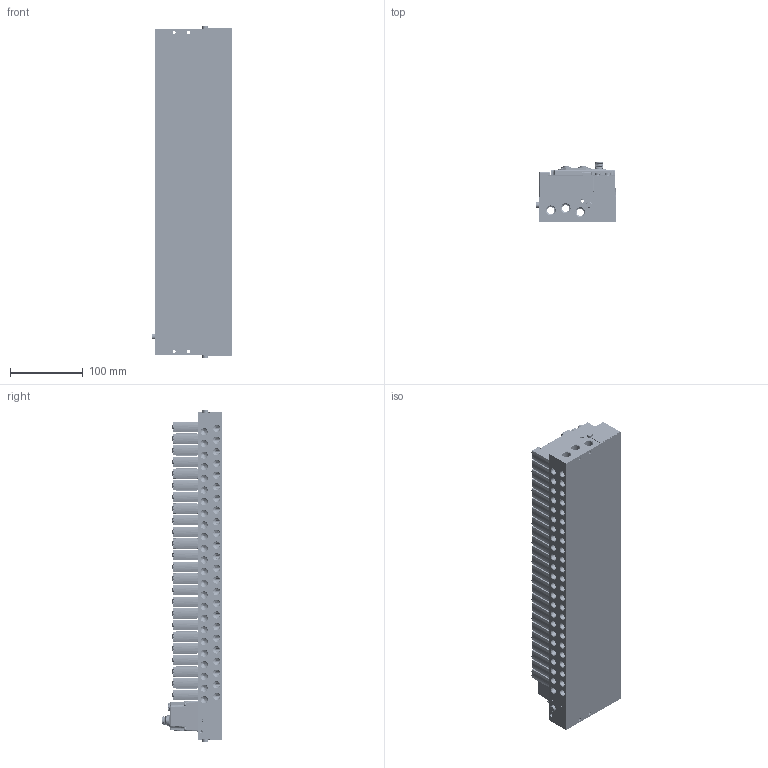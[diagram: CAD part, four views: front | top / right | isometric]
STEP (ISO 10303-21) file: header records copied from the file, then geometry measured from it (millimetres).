
FILE_DESCRIPTION((''),'2;1');
FILE_NAME('C3-L14-W-XBF-24_ASM_ASM','2026-06-17T13:48:57',('admin'),(''),'CREO PARAMETRIC BY PTC INC, 2022073','CREO PARAMETRIC BY PTC INC, 2022073','');
FILE_SCHEMA(('CONFIG_CONTROL_DESIGN'));
Products named in the file (43): PRT0002-1-SOLID2_1; 202300320_ASM-1_202300144-1-SOL; 202300320_ASM-1_202300353-2-SOL; 202300320_ASM-1_202300355-2-SOL; NONE-103256_1; PRT0002-1-SOLID4_1; 202300320_ASM-1_202300318_ASM-1; 202300320_ASM-1_202300355-1-SOL; 202300320_ASM-1_202300314_ASM-1; NONE-139148_1; 202300320_ASM-1_202300353-1-SOL; 202300320_ASM-1_202300327-1-SOL; NONE-182497_1; PRT0002-1-SOLID1_1; 202300320_ASM-1_202300351-1-SOL; 202300320_ASM-1_202300349-2-SOL; 202300320_ASM-1_202300351-2-SOL; 202300320_ASM-1_202300349-1-SOL; SURFACE-VGB14_ASM_1_ASM; M50001_1; 0001_1; M3X16-2-SOLID10001_1; M3X16-4-SOLID10001_1; SH794-1-1-SOLID1_1_1; SH794-1-1-SOLID1_1_2; SH794-1-1-SOLID1_1_3; SH794-1-1-SOLID1_1_ASM; M3X5-1-SOLID10001_1; M3X16-3-SOLID10001_1; M12D-2022_11_-70380001_1; M12D-2022_11_-82260001_1; M3X16-1-SOLID10001_1; NONE-196029_1; SH794-3-1-SOLID1_1; NONE-215390_1; M12A5-1-SOLID10001_1; XBF_0001_ASM_1_ASM; C3-L14-W-XBF-24-135038_1; C3-L14-W-XBF-24-210887_ASM_1_ASM; _06--1-SOLID30001_1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
Assembly tree (74 placements, depth 6):
  C3-L14-W-XBF-24_ASM_ASM
    C3-L14-W-XBF-24_ASM_1_ASM
      C3-L14-W-XBF-24-210887_ASM_1_ASM
        SURFACE-VGB14_ASM_1_ASM  x24
          PRT0002-1-SOLID2_1
          202300320_ASM-1_202300144-1-SOL
          202300320_ASM-1_202300353-2-SOL
          202300320_ASM-1_202300355-2-SOL
          NONE-103256_1
          PRT0002-1-SOLID4_1
          202300320_ASM-1_202300318_ASM-1
          202300320_ASM-1_202300355-1-SOL
          202300320_ASM-1_202300314_ASM-1
          NONE-139148_1
          202300320_ASM-1_202300353-1-SOL
          202300320_ASM-1_202300327-1-SOL
          NONE-182497_1
          PRT0002-1-SOLID1_1
          202300320_ASM-1_202300351-1-SOL
          202300320_ASM-1_202300349-2-SOL
          202300320_ASM-1_202300351-2-SOL
          202300320_ASM-1_202300349-1-SOL
        M50001_1  x3
        0001_1  x2
        XBF_0001_ASM_1_ASM
          M3X16-2-SOLID10001_1
          M3X16-4-SOLID10001_1
          SH794-1-1-SOLID1_1_ASM
            SH794-1-1-SOLID1_1_1
            SH794-1-1-SOLID1_1_2
            SH794-1-1-SOLID1_1_3
          M3X5-1-SOLID10001_1  x2
          M3X16-3-SOLID10001_1
          M12D-2022_11_-70380001_1
          M12D-2022_11_-82260001_1
          M3X16-1-SOLID10001_1
          NONE-196029_1
          SH794-3-1-SOLID1_1
          NONE-215390_1
          M12A5-1-SOLID10001_1
        C3-L14-W-XBF-24-135038_1
      _06--1-SOLID30001_1  x6
      IP_COVER_1
Bounding box: 110 x 83.3 x 456 mm (x, y, z)
Volume: 2107611.4 mm3; surface area: 758402 mm2
Topology: 460 solids, 630 shells, 35650 faces, 92675 edges, 54244 vertices
Faces by surface type: cylinder 12405, plane 8725, bspline 4031, torus 3773, cone 3326, sphere 3275, extrusion 115
Entity records: 214737 total; most frequent: CARTESIAN_POINT 74574, ORIENTED_EDGE 29344, DIRECTION 29114, EDGE_CURVE 14680, AXIS2_PLACEMENT_3D 11386, VERTEX_POINT 9380, EDGE_LOOP 6536, VECTOR 6342
